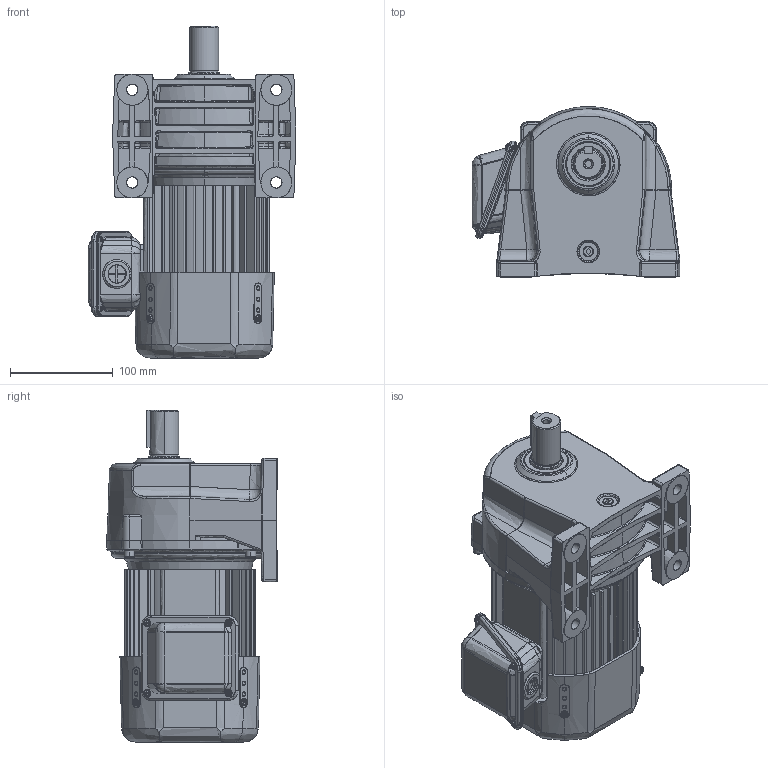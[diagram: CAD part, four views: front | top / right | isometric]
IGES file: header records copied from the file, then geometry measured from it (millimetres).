
Start section: SolidWorks IGES file using analytic representation for surfaces
Global section: file name: \\100.100.100.8\1_共有作業フォルダ\1-5_３Ｄデータ\solidworks\personal-folder\H.Nagayama\SGP1外形\P1(3D)\igs\TMLB2-02-(100~200).IGS; native system: SolidWorks 2018; preprocessor: SolidWorks 2018; author: sigma-giken; date: 200508.144030; units: millimetre
Bounding box: 202.09 x 166 x 322.6 mm (x, y, z)
Surface area: 478315.2 mm2 (no closed solid volume)
Topology: 0 solids, 0 shells, 1835 faces, 23204 edges, 23175 vertices
Faces by surface type: bspline 990, revolution 845
